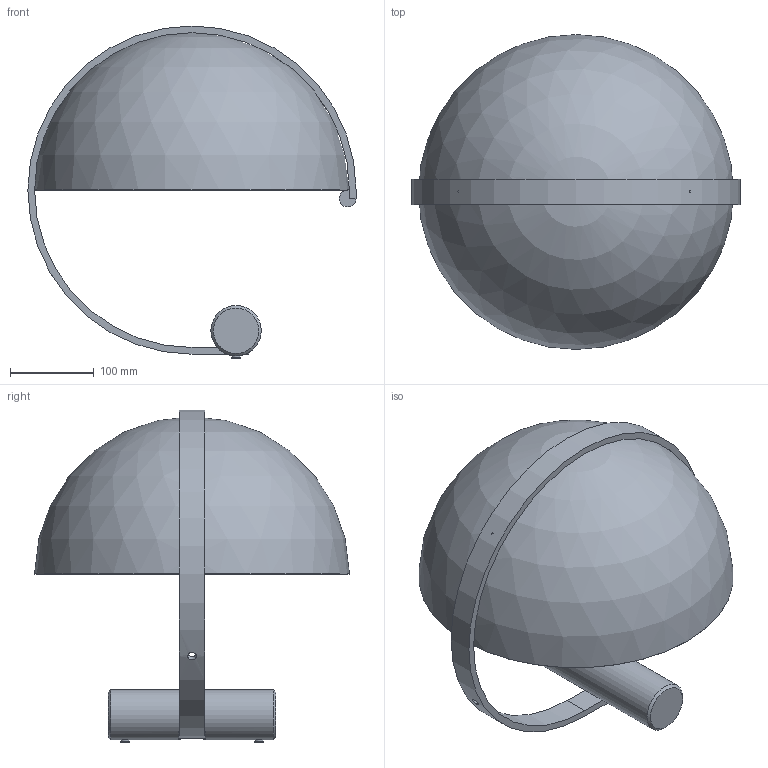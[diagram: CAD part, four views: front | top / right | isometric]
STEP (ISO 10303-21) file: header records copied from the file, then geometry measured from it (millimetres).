
FILE_DESCRIPTION(/* description */ ('Unknown'),/* implementation_level */ '2;1');
FILE_NAME(/* name */ '9698',/* time_stamp */ '2022-05-13T16:44:57+02:00',/* author */ ('Unknown'),/* organization */ ('Unknown'),/* preprocessor_version */ 'ST-DEVELOPER v18.1',/* originating_system */ 'Solid Edge',/* authorisation */ 'Unknown');
FILE_SCHEMA (('AUTOMOTIVE_DESIGN {1 0 10303 214 3 1 1}'));
Length unit declared in the file: millimetre
Products named in the file (22): 9698-9699-9700-9701; KIT9698-9699-9700-9701; 153000341703; 153000341142_1; 155000814142; 151001802051; 155000816064; 060000365352; 155000815002; G1446-NI; R2457-9; 005000051351; 005000050351; 005000052352; O2100-9; O2100-9 (01); O2100-9 (02); 210000089013; 212000036012; MM9698; 103000027528; 011000151000
Assembly tree (27 placements, depth 4):
  9698-9699-9700-9701
    KIT9698-9699-9700-9701
      153000341703
        153000341142_1
        155000814142
      151001802051
      155000816064
      060000365352  x2
      155000815002  x2
      G1446-NI  x2
      R2457-9  x2
      005000051351
      005000050351
      005000052352
      O2100-9
        O2100-9 (01)
        O2100-9 (02)
      210000089013  x2
      212000036012  x2
    MM9698
      103000027528
      011000151000
Bounding box: 391 x 375 x 395.5 mm (x, y, z)
Volume: 1674621.8 mm3; surface area: 629403.6 mm2
Topology: 29 solids, 29 shells, 959 faces, 2366 edges, 1489 vertices
Faces by surface type: plane 608, cylinder 211, cone 65, sphere 43, torus 29, bspline 3
Full cylindrical faces by diameter (mm): 0.4 x1, 2.5 x2, 2.6 x2, 3.242 x4, 3.5 x2, 4 x2, 4.134 x2, 4.917 x1, 5 x2, 5.5 x2, 6 x2, 7 x1, 7.8 x2, 8 x7, 8.75 x1, 8.917 x1, 10 x11, 10.5 x2, 20 x1, 24.835 x1, 26 x1, 29.8 x1, 34.917 x1, 35 x1, 36 x1, 37.6 x1, 39 x1, 60 x1
Entity records: 26674 total; most frequent: CARTESIAN_POINT 4827, DIRECTION 3653, ORIENTED_EDGE 3390, EDGE_CURVE 1695, AXIS2_PLACEMENT_3D 1340, VERTEX_POINT 1119, LINE 973, VECTOR 973
